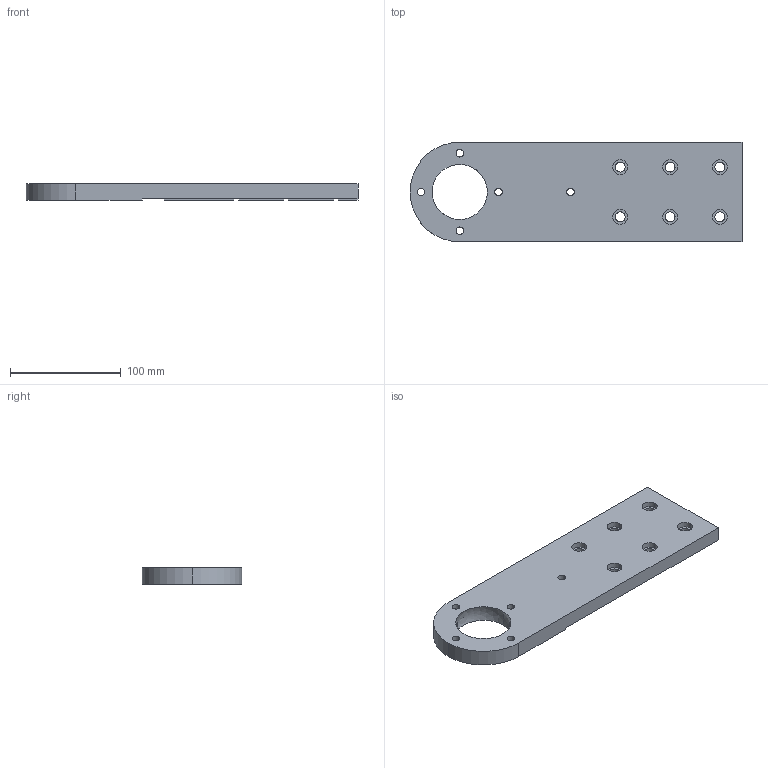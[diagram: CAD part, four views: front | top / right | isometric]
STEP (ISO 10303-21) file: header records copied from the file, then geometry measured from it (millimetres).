
FILE_DESCRIPTION (( 'STEP AP203' ), '1' );
FILE_NAME ('084.808.003.STEP', '2013-01-29T13:56:35', ( 'Alusic' ), ( 'Alusic' ), 'SwSTEP 2.0', 'SolidWorks 2011', '' );
FILE_SCHEMA (( 'CONFIG_CONTROL_DESIGN' ));
Length unit declared in the file: millimetre
Products named in the file (1): 084.808.003
Bounding box: 300 x 90 x 15 mm (x, y, z)
Volume: 327165.4 mm3; surface area: 65740.4 mm2
Topology: 1 solids, 1 shells, 91 faces, 270 edges, 179 vertices
Faces by surface type: plane 47, cylinder 41, sphere 3
Entity records: 3173 total; most frequent: DIRECTION 566, CARTESIAN_POINT 531, ORIENTED_EDGE 528, EDGE_CURVE 264, AXIS2_PLACEMENT_3D 211, VERTEX_POINT 176, LINE 144, VECTOR 144
